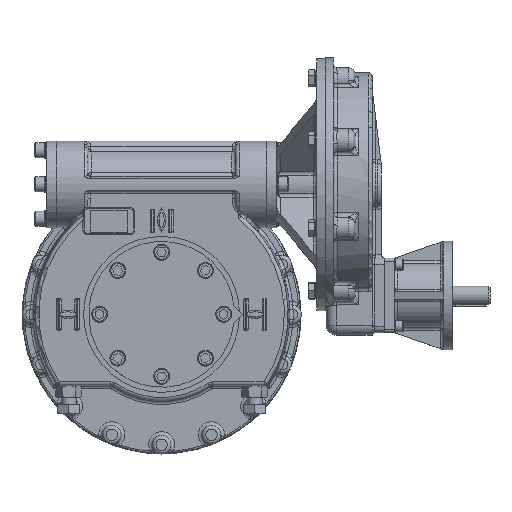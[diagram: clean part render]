
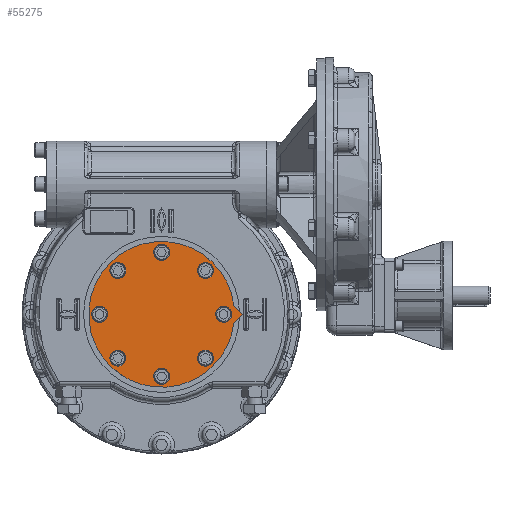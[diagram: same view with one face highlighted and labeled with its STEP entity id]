
A CAD part, top view. The second image highlights one B-rep face of the part: STEP entity #55275.
In plain terms, the highlighted planar face has unit normal (0, 0, 1).
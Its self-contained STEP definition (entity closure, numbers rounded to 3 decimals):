
#8454=LINE('',#127440,#14074);
#8456=LINE('',#127443,#14076);
#14074=VECTOR('',#74070,1000.);
#14076=VECTOR('',#74074,1000.);
#15592=PLANE('',#61306);
#29022=ORIENTED_EDGE('',*,*,#38468,.F.);
#29023=ORIENTED_EDGE('',*,*,#38469,.F.);
#29024=ORIENTED_EDGE('',*,*,#38470,.F.);
#29025=ORIENTED_EDGE('',*,*,#38471,.F.);
#29026=ORIENTED_EDGE('',*,*,#38472,.F.);
#29027=ORIENTED_EDGE('',*,*,#38473,.F.);
#29028=ORIENTED_EDGE('',*,*,#38474,.F.);
#29029=ORIENTED_EDGE('',*,*,#38475,.F.);
#29030=ORIENTED_EDGE('',*,*,#38453,.T.);
#29031=ORIENTED_EDGE('',*,*,#38457,.T.);
#29032=ORIENTED_EDGE('',*,*,#38459,.T.);
#38453=EDGE_CURVE('',#45315,#45314,#46798,.T.);
#38457=EDGE_CURVE('',#45314,#45317,#8454,.T.);
#38459=EDGE_CURVE('',#45317,#45315,#8456,.T.);
#38468=EDGE_CURVE('',#45326,#45326,#46807,.T.);
#38469=EDGE_CURVE('',#45327,#45327,#46808,.T.);
#38470=EDGE_CURVE('',#45328,#45328,#46809,.T.);
#38471=EDGE_CURVE('',#45329,#45329,#46810,.T.);
#38472=EDGE_CURVE('',#45330,#45330,#46811,.T.);
#38473=EDGE_CURVE('',#45331,#45331,#46812,.T.);
#38474=EDGE_CURVE('',#45332,#45332,#46813,.T.);
#38475=EDGE_CURVE('',#45333,#45333,#46814,.T.);
#45314=VERTEX_POINT('',#127431);
#45315=VERTEX_POINT('',#127433);
#45317=VERTEX_POINT('',#127439);
#45326=VERTEX_POINT('',#127463);
#45327=VERTEX_POINT('',#127465);
#45328=VERTEX_POINT('',#127467);
#45329=VERTEX_POINT('',#127469);
#45330=VERTEX_POINT('',#127471);
#45331=VERTEX_POINT('',#127473);
#45332=VERTEX_POINT('',#127475);
#45333=VERTEX_POINT('',#127477);
#46798=CIRCLE('',#61294,117.5);
#46807=CIRCLE('',#61307,8.5);
#46808=CIRCLE('',#61308,8.5);
#46809=CIRCLE('',#61309,8.5);
#46810=CIRCLE('',#61310,8.5);
#46811=CIRCLE('',#61311,8.5);
#46812=CIRCLE('',#61312,8.5);
#46813=CIRCLE('',#61313,8.5);
#46814=CIRCLE('',#61314,8.5);
#49584=EDGE_LOOP('',(#29022));
#49585=EDGE_LOOP('',(#29023));
#49586=EDGE_LOOP('',(#29024));
#49587=EDGE_LOOP('',(#29025));
#49588=EDGE_LOOP('',(#29026));
#49589=EDGE_LOOP('',(#29027));
#49590=EDGE_LOOP('',(#29028));
#49591=EDGE_LOOP('',(#29029));
#49592=EDGE_LOOP('',(#29030,#29031,#29032));
#52401=FACE_BOUND('',#49584,.T.);
#52402=FACE_BOUND('',#49585,.T.);
#52403=FACE_BOUND('',#49586,.T.);
#52404=FACE_BOUND('',#49587,.T.);
#52405=FACE_BOUND('',#49588,.T.);
#52406=FACE_BOUND('',#49589,.T.);
#52407=FACE_BOUND('',#49590,.T.);
#52408=FACE_BOUND('',#49591,.T.);
#52409=FACE_BOUND('',#49592,.T.);
#55275=ADVANCED_FACE('',(#52401,#52402,#52403,#52404,#52405,#52406,#52407,
#52408,#52409),#15592,.T.);
#61294=AXIS2_PLACEMENT_3D('',#127432,#74063,#74064);
#61306=AXIS2_PLACEMENT_3D('',#127461,#74093,#74094);
#61307=AXIS2_PLACEMENT_3D('',#127462,#74095,#74096);
#61308=AXIS2_PLACEMENT_3D('',#127464,#74097,#74098);
#61309=AXIS2_PLACEMENT_3D('',#127466,#74099,#74100);
#61310=AXIS2_PLACEMENT_3D('',#127468,#74101,#74102);
#61311=AXIS2_PLACEMENT_3D('',#127470,#74103,#74104);
#61312=AXIS2_PLACEMENT_3D('',#127472,#74105,#74106);
#61313=AXIS2_PLACEMENT_3D('',#127474,#74107,#74108);
#61314=AXIS2_PLACEMENT_3D('',#127476,#74109,#74110);
#74063=DIRECTION('',(0.,0.,1.));
#74064=DIRECTION('',(1.,0.,0.));
#74070=DIRECTION('',(0.707,0.707,0.));
#74074=DIRECTION('',(-0.707,0.707,0.));
#74093=DIRECTION('',(0.,0.,1.));
#74094=DIRECTION('',(0.,-1.,0.));
#74095=DIRECTION('',(0.,0.,1.));
#74096=DIRECTION('',(0.707,-0.707,0.));
#74097=DIRECTION('',(0.,0.,1.));
#74098=DIRECTION('',(1.,0.,0.));
#74099=DIRECTION('',(0.,0.,1.));
#74100=DIRECTION('',(0.707,0.707,0.));
#74101=DIRECTION('',(0.,0.,1.));
#74102=DIRECTION('',(0.,1.,0.));
#74103=DIRECTION('',(0.,0.,1.));
#74104=DIRECTION('',(-0.707,0.707,0.));
#74105=DIRECTION('',(0.,0.,1.));
#74106=DIRECTION('',(-1.,0.,0.));
#74107=DIRECTION('',(0.,0.,1.));
#74108=DIRECTION('',(-0.707,-0.707,0.));
#74109=DIRECTION('',(0.,0.,1.));
#74110=DIRECTION('',(0.,-1.,0.));
#127431=CARTESIAN_POINT('',(116.751,-13.249,65.25));
#127432=CARTESIAN_POINT('',(0.,0.,65.25));
#127433=CARTESIAN_POINT('',(116.751,13.249,65.25));
#127439=CARTESIAN_POINT('',(130.,0.,65.25));
#127440=CARTESIAN_POINT('',(116.751,-13.249,65.25));
#127443=CARTESIAN_POINT('',(130.,0.,65.25));
#127461=CARTESIAN_POINT('',(0.,0.,65.25));
#127462=CARTESIAN_POINT('',(70.711,70.711,65.25));
#127463=CARTESIAN_POINT('',(76.721,64.7,65.25));
#127464=CARTESIAN_POINT('',(0.,100.,65.25));
#127465=CARTESIAN_POINT('',(8.5,100.,65.25));
#127466=CARTESIAN_POINT('',(-70.711,70.711,65.25));
#127467=CARTESIAN_POINT('',(-64.7,76.721,65.25));
#127468=CARTESIAN_POINT('',(-100.,0.,65.25));
#127469=CARTESIAN_POINT('',(-100.,8.5,65.25));
#127470=CARTESIAN_POINT('',(-70.711,-70.711,65.25));
#127471=CARTESIAN_POINT('',(-76.721,-64.7,65.25));
#127472=CARTESIAN_POINT('',(0.,-100.,65.25));
#127473=CARTESIAN_POINT('',(-8.5,-100.,65.25));
#127474=CARTESIAN_POINT('',(70.711,-70.711,65.25));
#127475=CARTESIAN_POINT('',(64.7,-76.721,65.25));
#127476=CARTESIAN_POINT('',(100.,0.,65.25));
#127477=CARTESIAN_POINT('',(100.,-8.5,65.25));
